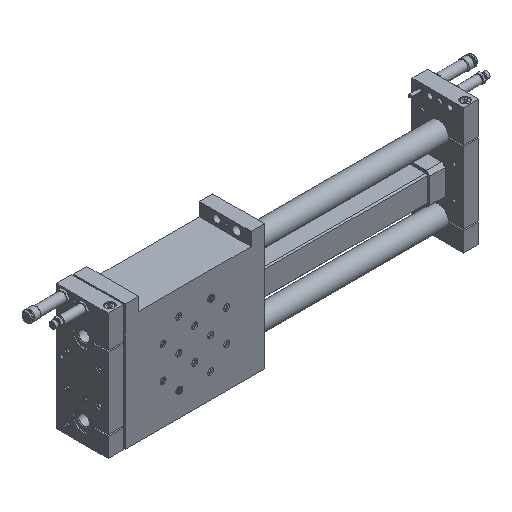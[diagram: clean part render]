
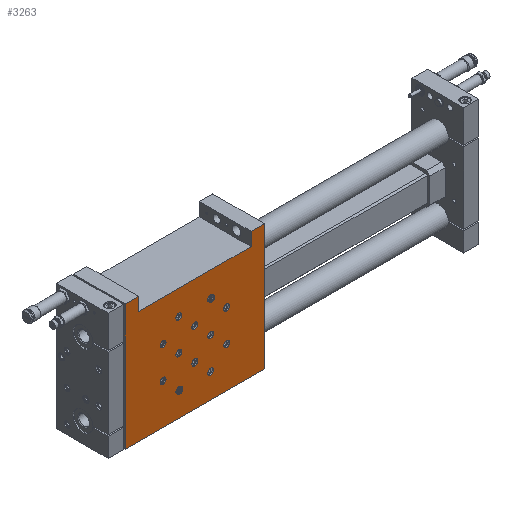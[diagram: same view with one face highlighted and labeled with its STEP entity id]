
A CAD part, isometric view. The second image highlights one B-rep face of the part: STEP entity #3263.
In plain terms, the highlighted planar face has unit normal (0, -1, 0).
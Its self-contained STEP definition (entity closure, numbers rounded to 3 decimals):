
#2289=CARTESIAN_POINT('',(-7.294,0.0,42.447));
#2290=VERTEX_POINT('',#2289);
#2291=CARTESIAN_POINT('',(-11.794,0.0,42.447));
#2292=DIRECTION('',(0.0,1.0,0.0));
#2293=DIRECTION('',(1.0,0.0,0.0));
#2294=AXIS2_PLACEMENT_3D('',#2291,#2292,#2293);
#2295=CIRCLE('',#2294,4.5);
#2296=EDGE_CURVE('',#2290,#2290,#2295,.T.);
#2500=CARTESIAN_POINT('',(-55.294,0.0,-53.553));
#2501=VERTEX_POINT('',#2500);
#2502=CARTESIAN_POINT('',(-59.794,0.0,-53.553));
#2503=DIRECTION('',(0.0,1.0,0.0));
#2504=DIRECTION('',(1.0,0.0,0.0));
#2505=AXIS2_PLACEMENT_3D('',#2502,#2503,#2504);
#2506=CIRCLE('',#2505,4.5);
#2507=EDGE_CURVE('',#2501,#2501,#2506,.T.);
#3076=CARTESIAN_POINT('',(-35.794,0.0,4.447));
#3077=DIRECTION('',(0.0,1.0,0.0));
#3078=DIRECTION('',(0.0,0.0,1.0));
#3079=AXIS2_PLACEMENT_3D('',#3076,#3077,#3078);
#3080=PLANE('',#3079);
#3081=CARTESIAN_POINT('',(69.206,0.0,-90.553));
#3082=VERTEX_POINT('',#3081);
#3083=CARTESIAN_POINT('',(-140.794,0.0,-90.553));
#3084=VERTEX_POINT('',#3083);
#3085=CARTESIAN_POINT('',(69.206,0.0,-90.553));
#3086=DIRECTION('',(-1.0,0.0,0.0));
#3087=VECTOR('',#3086,210.0);
#3088=LINE('',#3085,#3087);
#3089=EDGE_CURVE('',#3082,#3084,#3088,.T.);
#3090=ORIENTED_EDGE('',*,*,#3089,.F.);
#3091=CARTESIAN_POINT('',(69.206,0.0,99.447));
#3092=VERTEX_POINT('',#3091);
#3093=CARTESIAN_POINT('',(69.206,0.0,99.447));
#3094=DIRECTION('',(0.0,0.0,-1.0));
#3095=VECTOR('',#3094,190.0);
#3096=LINE('',#3093,#3095);
#3097=EDGE_CURVE('',#3092,#3082,#3096,.T.);
#3098=ORIENTED_EDGE('',*,*,#3097,.F.);
#3099=CARTESIAN_POINT('',(49.206,0.0,99.447));
#3100=VERTEX_POINT('',#3099);
#3101=CARTESIAN_POINT('',(49.206,0.0,99.447));
#3102=DIRECTION('',(1.0,0.0,0.0));
#3103=VECTOR('',#3102,20.);
#3104=LINE('',#3101,#3103);
#3105=EDGE_CURVE('',#3100,#3092,#3104,.T.);
#3106=ORIENTED_EDGE('',*,*,#3105,.F.);
#3107=CARTESIAN_POINT('',(49.206,0.0,79.447));
#3108=VERTEX_POINT('',#3107);
#3109=CARTESIAN_POINT('',(49.206,0.0,79.447));
#3110=DIRECTION('',(0.0,0.0,1.0));
#3111=VECTOR('',#3110,20.);
#3112=LINE('',#3109,#3111);
#3113=EDGE_CURVE('',#3108,#3100,#3112,.T.);
#3114=ORIENTED_EDGE('',*,*,#3113,.F.);
#3115=CARTESIAN_POINT('',(-120.794,0.0,79.447));
#3116=VERTEX_POINT('',#3115);
#3117=CARTESIAN_POINT('',(-120.794,0.0,79.447));
#3118=DIRECTION('',(1.0,0.0,0.0));
#3119=VECTOR('',#3118,170.);
#3120=LINE('',#3117,#3119);
#3121=EDGE_CURVE('',#3116,#3108,#3120,.T.);
#3122=ORIENTED_EDGE('',*,*,#3121,.F.);
#3123=CARTESIAN_POINT('',(-120.794,0.0,99.447));
#3124=VERTEX_POINT('',#3123);
#3125=CARTESIAN_POINT('',(-120.794,0.0,99.447));
#3126=DIRECTION('',(0.0,0.0,-1.0));
#3127=VECTOR('',#3126,20.);
#3128=LINE('',#3125,#3127);
#3129=EDGE_CURVE('',#3124,#3116,#3128,.T.);
#3130=ORIENTED_EDGE('',*,*,#3129,.F.);
#3131=CARTESIAN_POINT('',(-140.794,0.0,99.447));
#3132=VERTEX_POINT('',#3131);
#3133=CARTESIAN_POINT('',(-140.794,0.0,99.447));
#3134=DIRECTION('',(1.0,0.0,0.0));
#3135=VECTOR('',#3134,20.);
#3136=LINE('',#3133,#3135);
#3137=EDGE_CURVE('',#3132,#3124,#3136,.T.);
#3138=ORIENTED_EDGE('',*,*,#3137,.F.);
#3139=CARTESIAN_POINT('',(-140.794,0.0,-90.553));
#3140=DIRECTION('',(0.0,0.0,1.0));
#3141=VECTOR('',#3140,190.0);
#3142=LINE('',#3139,#3141);
#3143=EDGE_CURVE('',#3084,#3132,#3142,.T.);
#3144=ORIENTED_EDGE('',*,*,#3143,.F.);
#3145=EDGE_LOOP('',(#3090,#3098,#3106,#3114,#3122,#3130,#3138,#3144));
#3146=FACE_OUTER_BOUND('',#3145,.T.);
#3147=CARTESIAN_POINT('',(-55.294,0.0,42.447));
#3148=VERTEX_POINT('',#3147);
#3149=CARTESIAN_POINT('',(-59.794,0.0,42.447));
#3150=DIRECTION('',(0.0,1.0,0.0));
#3151=DIRECTION('',(1.0,0.0,0.0));
#3152=AXIS2_PLACEMENT_3D('',#3149,#3150,#3151);
#3153=CIRCLE('',#3152,4.5);
#3154=EDGE_CURVE('',#3148,#3148,#3153,.T.);
#3155=ORIENTED_EDGE('',*,*,#3154,.T.);
#3156=EDGE_LOOP('',(#3155));
#3157=FACE_BOUND('',#3156,.T.);
#3158=CARTESIAN_POINT('',(-31.294,0.0,18.447));
#3159=VERTEX_POINT('',#3158);
#3160=CARTESIAN_POINT('',(-35.794,0.0,18.447));
#3161=DIRECTION('',(0.0,1.0,0.0));
#3162=DIRECTION('',(1.0,0.0,0.0));
#3163=AXIS2_PLACEMENT_3D('',#3160,#3161,#3162);
#3164=CIRCLE('',#3163,4.5);
#3165=EDGE_CURVE('',#3159,#3159,#3164,.T.);
#3166=ORIENTED_EDGE('',*,*,#3165,.T.);
#3167=EDGE_LOOP('',(#3166));
#3168=FACE_BOUND('',#3167,.T.);
#3169=CARTESIAN_POINT('',(-7.294,0.0,-5.553));
#3170=VERTEX_POINT('',#3169);
#3171=CARTESIAN_POINT('',(-11.794,0.0,-5.553));
#3172=DIRECTION('',(0.0,1.0,0.0));
#3173=DIRECTION('',(1.0,0.0,0.0));
#3174=AXIS2_PLACEMENT_3D('',#3171,#3172,#3173);
#3175=CIRCLE('',#3174,4.5);
#3176=EDGE_CURVE('',#3170,#3170,#3175,.T.);
#3177=ORIENTED_EDGE('',*,*,#3176,.T.);
#3178=EDGE_LOOP('',(#3177));
#3179=FACE_BOUND('',#3178,.T.);
#3180=CARTESIAN_POINT('',(-55.294,0.0,-5.553));
#3181=VERTEX_POINT('',#3180);
#3182=CARTESIAN_POINT('',(-59.794,0.0,-5.553));
#3183=DIRECTION('',(0.0,1.0,0.0));
#3184=DIRECTION('',(1.0,0.0,0.0));
#3185=AXIS2_PLACEMENT_3D('',#3182,#3183,#3184);
#3186=CIRCLE('',#3185,4.5);
#3187=EDGE_CURVE('',#3181,#3181,#3186,.T.);
#3188=ORIENTED_EDGE('',*,*,#3187,.T.);
#3189=EDGE_LOOP('',(#3188));
#3190=FACE_BOUND('',#3189,.T.);
#3191=CARTESIAN_POINT('',(16.706,0.0,-29.553));
#3192=VERTEX_POINT('',#3191);
#3193=CARTESIAN_POINT('',(12.206,0.0,-29.553));
#3194=DIRECTION('',(0.0,1.0,0.0));
#3195=DIRECTION('',(1.0,0.0,0.0));
#3196=AXIS2_PLACEMENT_3D('',#3193,#3194,#3195);
#3197=CIRCLE('',#3196,4.5);
#3198=EDGE_CURVE('',#3192,#3192,#3197,.T.);
#3199=ORIENTED_EDGE('',*,*,#3198,.T.);
#3200=EDGE_LOOP('',(#3199));
#3201=FACE_BOUND('',#3200,.T.);
#3202=CARTESIAN_POINT('',(-31.294,0.0,-29.553));
#3203=VERTEX_POINT('',#3202);
#3204=CARTESIAN_POINT('',(-35.794,0.0,-29.553));
#3205=DIRECTION('',(0.0,1.0,0.0));
#3206=DIRECTION('',(1.0,0.0,0.0));
#3207=AXIS2_PLACEMENT_3D('',#3204,#3205,#3206);
#3208=CIRCLE('',#3207,4.5);
#3209=EDGE_CURVE('',#3203,#3203,#3208,.T.);
#3210=ORIENTED_EDGE('',*,*,#3209,.T.);
#3211=EDGE_LOOP('',(#3210));
#3212=FACE_BOUND('',#3211,.T.);
#3213=CARTESIAN_POINT('',(-79.294,0.0,-29.553));
#3214=VERTEX_POINT('',#3213);
#3215=CARTESIAN_POINT('',(-83.794,0.0,-29.553));
#3216=DIRECTION('',(0.0,1.0,0.0));
#3217=DIRECTION('',(1.0,0.0,0.0));
#3218=AXIS2_PLACEMENT_3D('',#3215,#3216,#3217);
#3219=CIRCLE('',#3218,4.5);
#3220=EDGE_CURVE('',#3214,#3214,#3219,.T.);
#3221=ORIENTED_EDGE('',*,*,#3220,.T.);
#3222=EDGE_LOOP('',(#3221));
#3223=FACE_BOUND('',#3222,.T.);
#3224=ORIENTED_EDGE('',*,*,#2507,.T.);
#3225=EDGE_LOOP('',(#3224));
#3226=FACE_BOUND('',#3225,.T.);
#3227=CARTESIAN_POINT('',(-7.294,0.0,-53.553));
#3228=VERTEX_POINT('',#3227);
#3229=CARTESIAN_POINT('',(-11.794,0.0,-53.553));
#3230=DIRECTION('',(0.0,1.0,0.0));
#3231=DIRECTION('',(1.0,0.0,0.0));
#3232=AXIS2_PLACEMENT_3D('',#3229,#3230,#3231);
#3233=CIRCLE('',#3232,4.5);
#3234=EDGE_CURVE('',#3228,#3228,#3233,.T.);
#3235=ORIENTED_EDGE('',*,*,#3234,.T.);
#3236=EDGE_LOOP('',(#3235));
#3237=FACE_BOUND('',#3236,.T.);
#3238=CARTESIAN_POINT('',(-79.294,0.0,18.447));
#3239=VERTEX_POINT('',#3238);
#3240=CARTESIAN_POINT('',(-83.794,0.0,18.447));
#3241=DIRECTION('',(0.0,1.0,0.0));
#3242=DIRECTION('',(1.0,0.0,0.0));
#3243=AXIS2_PLACEMENT_3D('',#3240,#3241,#3242);
#3244=CIRCLE('',#3243,4.5);
#3245=EDGE_CURVE('',#3239,#3239,#3244,.T.);
#3246=ORIENTED_EDGE('',*,*,#3245,.T.);
#3247=EDGE_LOOP('',(#3246));
#3248=FACE_BOUND('',#3247,.T.);
#3249=CARTESIAN_POINT('',(16.706,0.0,18.447));
#3250=VERTEX_POINT('',#3249);
#3251=CARTESIAN_POINT('',(12.206,0.0,18.447));
#3252=DIRECTION('',(0.0,1.0,0.0));
#3253=DIRECTION('',(1.0,0.0,0.0));
#3254=AXIS2_PLACEMENT_3D('',#3251,#3252,#3253);
#3255=CIRCLE('',#3254,4.5);
#3256=EDGE_CURVE('',#3250,#3250,#3255,.T.);
#3257=ORIENTED_EDGE('',*,*,#3256,.T.);
#3258=EDGE_LOOP('',(#3257));
#3259=FACE_BOUND('',#3258,.T.);
#3260=ORIENTED_EDGE('',*,*,#2296,.T.);
#3261=EDGE_LOOP('',(#3260));
#3262=FACE_BOUND('',#3261,.T.);
#3263=ADVANCED_FACE('',(#3146,#3157,#3168,#3179,#3190,#3201,#3212,#3223,#3226,#3237,#3248,#3259,#3262),#3080,.F.);
